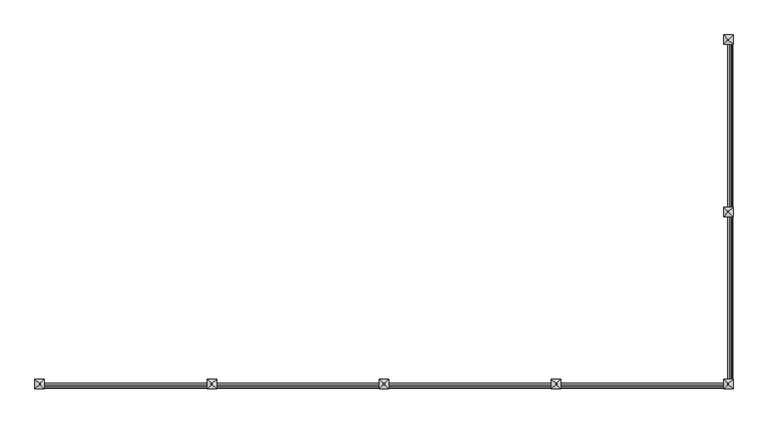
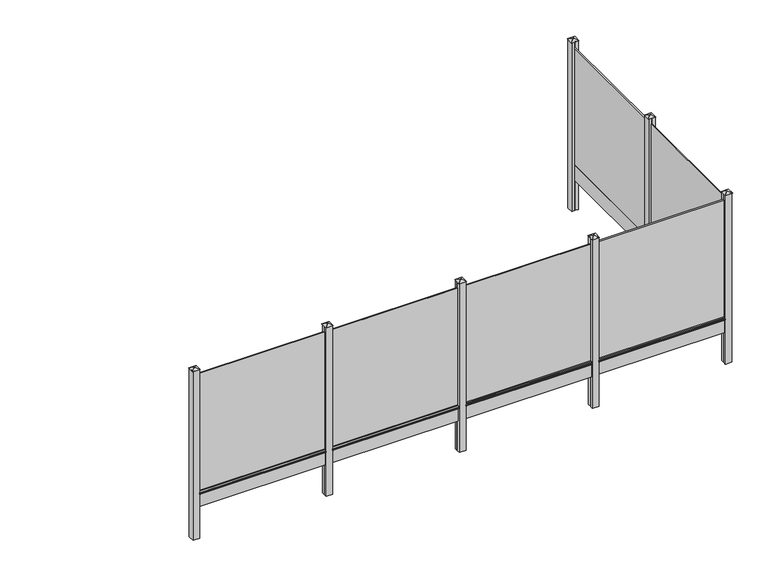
"""IFC4 building model written with IfcOpenShell, lengths in millimetres: railing geometry, Mehat - Railing - Plaque de Soubassement - Classique pour clôture rigide - 200x25x1.7 cm."""

import ifcopenshell
import ifcopenshell.guid

model = None  # the IFC model being written
_history = None  # IfcOwnerHistory: only IFC2X3 demands one
_inside = {}  # id of a spatial element -> (the spatial element, [elements in it])
_under = {}  # id of a project, library or spatial element -> (it, [spatial elements below it])
_declared = {}  # id of a project -> (the project, [libraries it declares])
_typed = {}  # id of a type object -> (the type object, [elements of that type])
_made_of = {}  # id of a material, layer set ... -> (it, [elements and type objects made of it])


def new_model(schema):
    """Start an empty IFC model of exactly this schema.

    Asked for "IFC4X3", IfcOpenShell would pick the latest addendum, in which some entities
    have other attributes; the version numbers below select the first issue.
    IFC2X3 requires an IfcOwnerHistory on every rooted entity: one is made here for all.
    """
    global model, _history
    if schema == "IFC4X3":
        model = ifcopenshell.file(schema_version=(4, 3, 0, 0))
    else:
        model = ifcopenshell.file(schema=schema)
    _inside.clear()
    _under.clear()
    _declared.clear()
    _typed.clear()
    _made_of.clear()
    _history = None
    if model.schema == "IFC2X3":
        org = make("IfcOrganization", Name="unknown")
        user = make(
            "IfcPersonAndOrganization",
            ThePerson=make("IfcPerson", FamilyName="unknown"),
            TheOrganization=org,
        )
        app = make(
            "IfcApplication",
            ApplicationDeveloper=org,
            Version="unknown",
            ApplicationFullName="unknown",
            ApplicationIdentifier="unknown",
        )
        _history = make(
            "IfcOwnerHistory",
            OwningUser=user,
            OwningApplication=app,
            ChangeAction="ADDED",
            CreationDate=0,
        )
    return model


def make(cls, **values):
    """One entity of the class cls with the attributes given. An attribute that is None is left unset."""
    return model.create_entity(
        cls, **{name: value for name, value in values.items() if value is not None}
    )


def rooted(cls, **values):
    """An entity with a GlobalId (a new one), such as an element, a storey or a relation."""
    return make(cls, GlobalId=ifcopenshell.guid.new(), OwnerHistory=_history, **values)


def si_unit(unit_type, name, prefix=None):
    """IfcSIUnit, for example si_unit("LENGTHUNIT", "METRE", prefix="MILLI")."""
    return make("IfcSIUnit", UnitType=unit_type, Prefix=prefix, Name=name)


def assignment(units):
    """IfcUnitAssignment: the units of a project."""
    return None if units is None else make("IfcUnitAssignment", Units=units)


def point(xyz):
    """IfcCartesianPoint."""
    return None if xyz is None else make("IfcCartesianPoint", Coordinates=xyz)


def direction(xyz):
    """IfcDirection."""
    return None if xyz is None else make("IfcDirection", DirectionRatios=xyz)


def frame(location, z_axis=None, x_axis=None):
    """IfcAxis2Placement3D, a coordinate frame: its origin and axes. An axis left out is left unset."""
    return make(
        "IfcAxis2Placement3D",
        Location=point(location),
        Axis=direction(z_axis),
        RefDirection=direction(x_axis),
    )


def frame_2d(location, x_axis=None):
    """IfcAxis2Placement2D, a coordinate frame in the plane: its origin and x axis."""
    return make(
        "IfcAxis2Placement2D", Location=point(location), RefDirection=direction(x_axis)
    )


def origin():
    """The frame at (0, 0, 0) with its axes left unset."""
    return frame((0.0, 0.0, 0.0))


def origin_with_axes():
    """The frame at (0, 0, 0) with the z axis (0, 0, 1) and the x axis (1, 0, 0) written out."""
    return frame((0.0, 0.0, 0.0), z_axis=(0.0, 0.0, 1.0), x_axis=(1.0, 0.0, 0.0))


def place(relative_to, where):
    """IfcLocalPlacement: puts the frame where relative to a parent placement (None: the world)."""
    return make(
        "IfcLocalPlacement", PlacementRelTo=relative_to, RelativePlacement=where
    )


def context(
    kind, dimensions, precision=None, world=None, true_north=None, identifier=None
):
    """IfcGeometricRepresentationContext, for example the 3D "Model" context."""
    return make(
        "IfcGeometricRepresentationContext",
        ContextIdentifier=identifier,
        ContextType=kind,
        CoordinateSpaceDimension=dimensions,
        Precision=precision,
        WorldCoordinateSystem=world,
        TrueNorth=true_north,
    )


def project(units=None, contexts=None):
    """IfcProject with its units and contexts."""
    return rooted(
        "IfcProject",
        Name="project",
        RepresentationContexts=contexts,
        UnitsInContext=assignment(units),
    )


def spatial(cls, under=None, at=None, **own):
    """A site, building, storey or space (cls), placed at a placement, below another one or the project."""
    s = rooted(cls, ObjectPlacement=at, **own)
    if under is not None:
        _under.setdefault(under.id(), (under, []))[1].append(s)
    return s


def polyline(points):
    """IfcPolyline through the points."""
    return make("IfcPolyline", Points=[point(p) for p in points])


def circle_curve(where, radius):
    """IfcCircle in the frame where."""
    return make("IfcCircle", Position=where, Radius=radius)


def trimmed(basis, trim1, trim2, sense, master):
    """IfcTrimmedCurve: the piece of a basis curve between two trims."""
    return make(
        "IfcTrimmedCurve",
        BasisCurve=basis,
        Trim1=trim1,
        Trim2=trim2,
        SenseAgreement=sense,
        MasterRepresentation=master,
    )


def segment(curve, same_sense, transition):
    """IfcCompositeCurveSegment."""
    return make(
        "IfcCompositeCurveSegment",
        Transition=transition,
        SameSense=same_sense,
        ParentCurve=curve,
    )


def composite_curve(segments, self_intersect=None):
    """IfcCompositeCurve: segments joined end to end."""
    return make("IfcCompositeCurve", Segments=segments, SelfIntersect=self_intersect)


def outline(outer, holes=None, kind="AREA"):
    """IfcArbitraryClosedProfileDef: a profile drawn as a closed curve; with holes, ...WithVoids."""
    if holes is None:
        return make("IfcArbitraryClosedProfileDef", ProfileType=kind, OuterCurve=outer)
    return make(
        "IfcArbitraryProfileDefWithVoids",
        ProfileType=kind,
        OuterCurve=outer,
        InnerCurves=holes,
    )


def extrude(swept, where, along, depth):
    """IfcExtrudedAreaSolid: the profile swept, set in the frame where, extruded along a direction by depth."""
    return make(
        "IfcExtrudedAreaSolid",
        SweptArea=swept,
        Position=where,
        ExtrudedDirection=direction(along),
        Depth=depth,
    )


def faces_of(points, faces, orient=None, outer=None):
    """IfcFace entities. A face is a list of loops; a loop is a list of indices into points, from 0.

    orient and outer hold one flag for each loop. By default every Orientation is true, the
    first loop of a face is its IfcFaceOuterBound and the others are IfcFaceBound.
    """
    made = []
    for i, loops in enumerate(faces):
        bounds = []
        for j, loop in enumerate(loops):
            is_outer = j == 0 if outer is None else outer[i][j]
            bounds.append(
                make(
                    "IfcFaceOuterBound" if is_outer else "IfcFaceBound",
                    Bound=make("IfcPolyLoop", Polygon=[points[k] for k in loop]),
                    Orientation=True if orient is None else orient[i][j],
                )
            )
        made.append(make("IfcFace", Bounds=bounds))
    return made


def faceted_brep(points, faces, orient=None, outer=None, voids=None):
    """IfcFacetedBrep: a solid bounded by flat faces; with voids (closed shells), ...WithVoids."""
    shared = [point(p) for p in points]
    hull = make("IfcClosedShell", CfsFaces=faces_of(shared, faces, orient, outer))
    if voids is None:
        return make("IfcFacetedBrep", Outer=hull)
    return make(
        "IfcFacetedBrepWithVoids",
        Outer=hull,
        Voids=[
            make(cls, CfsFaces=faces_of(shared, fs, o, b)) for cls, fs, o, b in voids
        ],
    )


def shape(context_of_items, identifier, shape_type, items):
    """IfcShapeRepresentation: the items that make up one representation, for example the "Body"."""
    return make(
        "IfcShapeRepresentation",
        ContextOfItems=context_of_items,
        RepresentationIdentifier=identifier,
        RepresentationType=shape_type,
        Items=items,
    )


def source(mapping_origin, context_of_items, identifier, shape_type, items):
    """IfcRepresentationMap: a shape defined once, which mapped items show again and again."""
    return make(
        "IfcRepresentationMap",
        MappingOrigin=mapping_origin,
        MappedRepresentation=shape(context_of_items, identifier, shape_type, items),
    )


def transform(
    local_origin,
    x_axis=None,
    y_axis=None,
    z_axis=None,
    scale=None,
    scale2=None,
    scale3=None,
    uniform=True,
):
    """IfcCartesianTransformationOperator3D, or its non-uniform kind. x_axis, y_axis, z_axis: its Axis1, 2, 3."""
    if uniform:
        return make(
            "IfcCartesianTransformationOperator3D",
            Axis1=direction(x_axis),
            Axis2=direction(y_axis),
            LocalOrigin=point(local_origin),
            Scale=scale,
            Axis3=direction(z_axis),
        )
    return make(
        "IfcCartesianTransformationOperator3DnonUniform",
        Axis1=direction(x_axis),
        Axis2=direction(y_axis),
        LocalOrigin=point(local_origin),
        Scale=scale,
        Axis3=direction(z_axis),
        Scale2=scale2,
        Scale3=scale3,
    )


def mapped(mapping_source, mapping_target):
    """IfcMappedItem: shows the shape of a source again, moved by a transform."""
    return make(
        "IfcMappedItem", MappingSource=mapping_source, MappingTarget=mapping_target
    )


def made_of(thing, what):
    """Note that an element or type object is made of a material, layer set ...; save() writes the relation."""
    if what is not None:
        _made_of.setdefault(what.id(), (what, []))[1].append(thing)
    return thing


def element(
    cls,
    number,
    at=None,
    inside=None,
    cuts=None,
    type_object=None,
    material=None,
    context=None,
    identifier="Body",
    shape_type=None,
    held_by="IfcProductDefinitionShape",
    body=None,
    shapes=None,
    **own,
):
    """One element of the class cls, such as IfcWall. Its Tag is "e" and its number.

    at: its placement. inside: the storey or other place that contains it. cuts: it is an
    opening in that element (IfcRelVoidsElement). A single representation is given by context,
    identifier, shape_type and body (its items); several are given by shapes. held_by: the class
    of the entity that holds the representations. save() writes the other relations.
    """
    e = rooted(cls, Tag="e%d" % number, ObjectPlacement=at, **own)
    if body is not None:
        shapes = [shape(context, identifier, shape_type, body)]
    if shapes is not None:
        e.Representation = make(held_by, Representations=shapes)
    if inside is not None:
        _inside.setdefault(inside.id(), (inside, []))[1].append(e)
    if cuts is not None:
        rooted(
            "IfcRelVoidsElement", RelatingBuildingElement=cuts, RelatedOpeningElement=e
        )
    if type_object is not None:
        _typed.setdefault(type_object.id(), (type_object, []))[1].append(e)
    return made_of(e, material)


def aggregate(whole, parts):
    """IfcRelAggregates: a whole, such as a stair, and the parts it consists of."""
    return rooted("IfcRelAggregates", RelatingObject=whole, RelatedObjects=parts)


def save(model, path):
    """Write the relations noted so far, then the file.

    IfcRelAggregates (storeys below a building ...), IfcRelContainedInSpatialStructure (elements
    in a storey), IfcRelDefinesByType, IfcRelAssociatesMaterial and IfcRelDeclares: one each for
    every whole, place, type object, material and project.
    """
    for whole, parts in _under.values():
        aggregate(whole, parts)
    for where, things in _inside.values():
        rooted(
            "IfcRelContainedInSpatialStructure",
            RelatedElements=things,
            RelatingStructure=where,
        )
    for kind, things in _typed.values():
        rooted("IfcRelDefinesByType", RelatedObjects=things, RelatingType=kind)
    for what, things in _made_of.values():
        rooted("IfcRelAssociatesMaterial", RelatedObjects=things, RelatingMaterial=what)
    for by, libraries in _declared.values():
        rooted("IfcRelDeclares", RelatingContext=by, RelatedDefinitions=libraries)
    model.write(path)


def railing_63ea84c1(model_context):
    return source(origin(), model_context, "Body", "SolidModel", [
        extrude(outline(polyline([(-40103.7483484, -11327.4943936), (-40120.7483484, -11327.4943936), (-40120.7483484, -9327.4943936), (-40103.7483484, -9327.4943936), (-40103.7483484, -11327.4943936)])), frame((0.0, 0.0, 250.0), z_axis=(0.0, 0.0, 1.0), x_axis=(1.0, 0.0, 0.0)), (0.0, 0.0, 1.0), 1900.0),
        extrude(outline(polyline([(-40103.7483484, -11327.4943936), (-40120.7483484, -11327.4943936), (-40120.7483484, -9327.4943936), (-40103.7483484, -9327.4943936), (-40103.7483484, -9352.4943936), (-40085.7483484, -9352.4943936), (-40085.7483484, -11302.4943936), (-40103.7483484, -11302.4943936), (-40103.7483484, -11327.4943936)])), origin_with_axes(), (0.0, 0.0, 1.0), 250.0),
        extrude(outline(composite_curve([segment(polyline([(210.0, -40085.7483484), (217.1937129, -40064.1672095)]), True, "CONTINUOUS"), segment(trimmed(circle_curve(frame_2d((221.9371294, -40065.7483484)), 5.0), [point((217.1937129, -40064.1672095))], [point((221.9371294, -40060.7483484))], False, "CARTESIAN"), True, "CONTINUOUS"), segment(polyline([(221.9371294, -40060.7483484), (238.0628706, -40060.7483484)]), True, "CONTINUOUS"), segment(trimmed(circle_curve(frame_2d((238.0628706, -40065.7483484)), 5.0), [point((238.0628706, -40060.7483484))], [point((242.8062871, -40064.1672095))], False, "CARTESIAN"), True, "CONTINUOUS"), segment(polyline([(242.8062871, -40064.1672095), (250.0, -40085.7483484), (210.0, -40085.7483484)]), True, "CONTINUOUS")], self_intersect=False)), frame((0.0, -11302.4943936, 0.0), z_axis=(0.0, 1.0, 0.0), x_axis=(0.0, 0.0, 1.0)), (0.0, 0.0, 1.0), 1950.0),
        extrude(outline(polyline([(-40062.2483484, -11402.4943936), (-40103.7483484, -11402.4943936), (-40103.7483484, -11377.4943936), (-40120.7483484, -11377.4943936), (-40120.7483484, -11402.4943936), (-40162.2483484, -11402.4943936), (-40162.2483484, -11302.4943936), (-40120.7483484, -11302.4943936), (-40120.7483484, -11327.4943936), (-40103.7483484, -11327.4943936), (-40103.7483484, -11302.4943936), (-40062.2483484, -11302.4943936), (-40062.2483484, -11402.4943936)])), frame((0.0, 0.0, -500.0), z_axis=(0.0, 0.0, 1.0), x_axis=(1.0, 0.0, 0.0)), (0.0, 0.0, 1.0), 2750.0),
        faceted_brep([(-40118.6528945, -11346.1443936, 2275.4), (-40118.6528945, -11358.8443936, 2275.4), (-40105.9528945, -11358.8443936, 2275.4), (-40105.9528945, -11346.1443936, 2275.4), (-40168.5983484, -11296.1443936, 2250.0), (-40055.8983484, -11296.1443936, 2250.0), (-40055.8983484, -11408.8443936, 2250.0), (-40168.5983484, -11408.8443936, 2250.0)], [[[0, 1, 2, 3]], [[4, 5, 6, 7]], [[4, 0, 3, 5]], [[5, 3, 2, 6]], [[6, 2, 1, 7]], [[7, 1, 0, 4]]]),
        extrude(outline(polyline([(-40103.7483484, -13377.4943936), (-40120.7483484, -13377.4943936), (-40120.7483484, -11377.4943936), (-40103.7483484, -11377.4943936), (-40103.7483484, -13377.4943936)])), frame((0.0, 0.0, 250.0), z_axis=(0.0, 0.0, 1.0), x_axis=(1.0, 0.0, 0.0)), (0.0, 0.0, 1.0), 1900.0),
        extrude(outline(polyline([(-40103.7483484, -13377.4943936), (-40120.7483484, -13377.4943936), (-40120.7483484, -11377.4943936), (-40103.7483484, -11377.4943936), (-40103.7483484, -11402.4943936), (-40085.7483484, -11402.4943936), (-40085.7483484, -13352.4943936), (-40103.7483484, -13352.4943936), (-40103.7483484, -13377.4943936)])), origin_with_axes(), (0.0, 0.0, 1.0), 250.0),
        extrude(outline(composite_curve([segment(polyline([(210.0, -40085.7483484), (217.1937129, -40064.1672095)]), True, "CONTINUOUS"), segment(trimmed(circle_curve(frame_2d((221.9371294, -40065.7483484)), 5.0), [point((217.1937129, -40064.1672095))], [point((221.9371294, -40060.7483484))], False, "CARTESIAN"), True, "CONTINUOUS"), segment(polyline([(221.9371294, -40060.7483484), (238.0628706, -40060.7483484)]), True, "CONTINUOUS"), segment(trimmed(circle_curve(frame_2d((238.0628706, -40065.7483484)), 5.0), [point((238.0628706, -40060.7483484))], [point((242.8062871, -40064.1672095))], False, "CARTESIAN"), True, "CONTINUOUS"), segment(polyline([(242.8062871, -40064.1672095), (250.0, -40085.7483484), (210.0, -40085.7483484)]), True, "CONTINUOUS")], self_intersect=False)), frame((0.0, -13352.4943936, 0.0), z_axis=(0.0, 1.0, 0.0), x_axis=(0.0, 0.0, 1.0)), (0.0, 0.0, 1.0), 1950.0),
        extrude(outline(polyline([(-42137.2483484, -13410.9943936), (-42137.2483484, -13393.9943936), (-40137.2483484, -13393.9943936), (-40137.2483484, -13410.9943936), (-42137.2483484, -13410.9943936)])), frame((0.0, 0.0, 250.0), z_axis=(0.0, 0.0, 1.0), x_axis=(1.0, 0.0, 0.0)), (0.0, 0.0, 1.0), 1900.0),
        extrude(outline(polyline([(-42137.2483484, -13410.9943936), (-42137.2483484, -13393.9943936), (-40137.2483484, -13393.9943936), (-40137.2483484, -13410.9943936), (-40162.2483484, -13410.9943936), (-40162.2483484, -13428.9943936), (-42112.2483484, -13428.9943936), (-42112.2483484, -13410.9943936), (-42137.2483484, -13410.9943936)])), origin_with_axes(), (0.0, 0.0, 1.0), 250.0),
        extrude(outline(composite_curve([segment(polyline([(-13428.9943936, 210.0), (-13450.5755325, 217.1937129)]), True, "CONTINUOUS"), segment(trimmed(circle_curve(frame_2d((-13448.9943936, 221.9371294)), 5.0), [point((-13450.5755325, 217.1937129))], [point((-13453.9943936, 221.9371294))], False, "CARTESIAN"), True, "CONTINUOUS"), segment(polyline([(-13453.9943936, 221.9371294), (-13453.9943936, 238.0628706)]), True, "CONTINUOUS"), segment(trimmed(circle_curve(frame_2d((-13448.9943936, 238.0628706)), 5.0), [point((-13453.9943936, 238.0628706))], [point((-13450.5755325, 242.8062871))], False, "CARTESIAN"), True, "CONTINUOUS"), segment(polyline([(-13450.5755325, 242.8062871), (-13428.9943936, 250.0), (-13428.9943936, 210.0)]), True, "CONTINUOUS")], self_intersect=False)), frame((-42112.2483484, 0.0, 0.0), z_axis=(1.0, 0.0, 0.0), x_axis=(0.0, 1.0, 0.0)), (0.0, 0.0, 1.0), 1950.0),
        extrude(outline(polyline([(-42212.2483484, -13452.4943936), (-42212.2483484, -13410.9943936), (-42187.2483484, -13410.9943936), (-42187.2483484, -13393.9943936), (-42212.2483484, -13393.9943936), (-42212.2483484, -13352.4943936), (-42112.2483484, -13352.4943936), (-42112.2483484, -13393.9943936), (-42137.2483484, -13393.9943936), (-42137.2483484, -13410.9943936), (-42112.2483484, -13410.9943936), (-42112.2483484, -13452.4943936), (-42212.2483484, -13452.4943936)])), frame((0.0, 0.0, -500.0), z_axis=(0.0, 0.0, 1.0), x_axis=(1.0, 0.0, 0.0)), (0.0, 0.0, 1.0), 2750.0),
        faceted_brep([(-42155.8983484, -13396.0898475, 2275.4), (-42168.5983484, -13396.0898475, 2275.4), (-42168.5983484, -13408.7898475, 2275.4), (-42155.8983484, -13408.7898475, 2275.4), (-42105.8983484, -13346.1443936, 2250.0), (-42105.8983484, -13458.8443936, 2250.0), (-42218.5983484, -13458.8443936, 2250.0), (-42218.5983484, -13346.1443936, 2250.0)], [[[0, 1, 2, 3]], [[4, 5, 6, 7]], [[4, 0, 3, 5]], [[5, 3, 2, 6]], [[6, 2, 1, 7]], [[7, 1, 0, 4]]]),
        extrude(outline(polyline([(-44187.2483484, -13410.9943936), (-44187.2483484, -13393.9943936), (-42187.2483484, -13393.9943936), (-42187.2483484, -13410.9943936), (-44187.2483484, -13410.9943936)])), frame((0.0, 0.0, 250.0), z_axis=(0.0, 0.0, 1.0), x_axis=(1.0, 0.0, 0.0)), (0.0, 0.0, 1.0), 1900.0),
        extrude(outline(polyline([(-44187.2483484, -13410.9943936), (-44187.2483484, -13393.9943936), (-42187.2483484, -13393.9943936), (-42187.2483484, -13410.9943936), (-42212.2483484, -13410.9943936), (-42212.2483484, -13428.9943936), (-44162.2483484, -13428.9943936), (-44162.2483484, -13410.9943936), (-44187.2483484, -13410.9943936)])), origin_with_axes(), (0.0, 0.0, 1.0), 250.0),
        extrude(outline(composite_curve([segment(polyline([(-13428.9943936, 210.0), (-13450.5755325, 217.1937129)]), True, "CONTINUOUS"), segment(trimmed(circle_curve(frame_2d((-13448.9943936, 221.9371294)), 5.0), [point((-13450.5755325, 217.1937129))], [point((-13453.9943936, 221.9371294))], False, "CARTESIAN"), True, "CONTINUOUS"), segment(polyline([(-13453.9943936, 221.9371294), (-13453.9943936, 238.0628706)]), True, "CONTINUOUS"), segment(trimmed(circle_curve(frame_2d((-13448.9943936, 238.0628706)), 5.0), [point((-13453.9943936, 238.0628706))], [point((-13450.5755325, 242.8062871))], False, "CARTESIAN"), True, "CONTINUOUS"), segment(polyline([(-13450.5755325, 242.8062871), (-13428.9943936, 250.0), (-13428.9943936, 210.0)]), True, "CONTINUOUS")], self_intersect=False)), frame((-44162.2483484, 0.0, 0.0), z_axis=(1.0, 0.0, 0.0), x_axis=(0.0, 1.0, 0.0)), (0.0, 0.0, 1.0), 1950.0),
        extrude(outline(polyline([(-44262.2483484, -13452.4943936), (-44262.2483484, -13410.9943936), (-44237.2483484, -13410.9943936), (-44237.2483484, -13393.9943936), (-44262.2483484, -13393.9943936), (-44262.2483484, -13352.4943936), (-44162.2483484, -13352.4943936), (-44162.2483484, -13393.9943936), (-44187.2483484, -13393.9943936), (-44187.2483484, -13410.9943936), (-44162.2483484, -13410.9943936), (-44162.2483484, -13452.4943936), (-44262.2483484, -13452.4943936)])), frame((0.0, 0.0, -500.0), z_axis=(0.0, 0.0, 1.0), x_axis=(1.0, 0.0, 0.0)), (0.0, 0.0, 1.0), 2750.0),
        faceted_brep([(-44205.8983484, -13396.0898475, 2275.4), (-44218.5983484, -13396.0898475, 2275.4), (-44218.5983484, -13408.7898475, 2275.4), (-44205.8983484, -13408.7898475, 2275.4), (-44155.8983484, -13346.1443936, 2250.0), (-44155.8983484, -13458.8443936, 2250.0), (-44268.5983484, -13458.8443936, 2250.0), (-44268.5983484, -13346.1443936, 2250.0)], [[[0, 1, 2, 3]], [[4, 5, 6, 7]], [[4, 0, 3, 5]], [[5, 3, 2, 6]], [[6, 2, 1, 7]], [[7, 1, 0, 4]]]),
        extrude(outline(polyline([(-46237.2483484, -13410.9943936), (-46237.2483484, -13393.9943936), (-44237.2483484, -13393.9943936), (-44237.2483484, -13410.9943936), (-46237.2483484, -13410.9943936)])), frame((0.0, 0.0, 250.0), z_axis=(0.0, 0.0, 1.0), x_axis=(1.0, 0.0, 0.0)), (0.0, 0.0, 1.0), 1900.0),
        extrude(outline(polyline([(-46237.2483484, -13410.9943936), (-46237.2483484, -13393.9943936), (-44237.2483484, -13393.9943936), (-44237.2483484, -13410.9943936), (-44262.2483484, -13410.9943936), (-44262.2483484, -13428.9943936), (-46212.2483484, -13428.9943936), (-46212.2483484, -13410.9943936), (-46237.2483484, -13410.9943936)])), origin_with_axes(), (0.0, 0.0, 1.0), 250.0),
        extrude(outline(composite_curve([segment(polyline([(-13428.9943936, 210.0), (-13450.5755325, 217.1937129)]), True, "CONTINUOUS"), segment(trimmed(circle_curve(frame_2d((-13448.9943936, 221.9371294)), 5.0), [point((-13450.5755325, 217.1937129))], [point((-13453.9943936, 221.9371294))], False, "CARTESIAN"), True, "CONTINUOUS"), segment(polyline([(-13453.9943936, 221.9371294), (-13453.9943936, 238.0628706)]), True, "CONTINUOUS"), segment(trimmed(circle_curve(frame_2d((-13448.9943936, 238.0628706)), 5.0), [point((-13453.9943936, 238.0628706))], [point((-13450.5755325, 242.8062871))], False, "CARTESIAN"), True, "CONTINUOUS"), segment(polyline([(-13450.5755325, 242.8062871), (-13428.9943936, 250.0), (-13428.9943936, 210.0)]), True, "CONTINUOUS")], self_intersect=False)), frame((-46212.2483484, 0.0, 0.0), z_axis=(1.0, 0.0, 0.0), x_axis=(0.0, 1.0, 0.0)), (0.0, 0.0, 1.0), 1950.0),
        extrude(outline(polyline([(-46312.2483484, -13452.4943936), (-46312.2483484, -13410.9943936), (-46287.2483484, -13410.9943936), (-46287.2483484, -13393.9943936), (-46312.2483484, -13393.9943936), (-46312.2483484, -13352.4943936), (-46212.2483484, -13352.4943936), (-46212.2483484, -13393.9943936), (-46237.2483484, -13393.9943936), (-46237.2483484, -13410.9943936), (-46212.2483484, -13410.9943936), (-46212.2483484, -13452.4943936), (-46312.2483484, -13452.4943936)])), frame((0.0, 0.0, -500.0), z_axis=(0.0, 0.0, 1.0), x_axis=(1.0, 0.0, 0.0)), (0.0, 0.0, 1.0), 2750.0),
        faceted_brep([(-46255.8983484, -13396.0898475, 2275.4), (-46268.5983484, -13396.0898475, 2275.4), (-46268.5983484, -13408.7898475, 2275.4), (-46255.8983484, -13408.7898475, 2275.4), (-46205.8983484, -13346.1443936, 2250.0), (-46205.8983484, -13458.8443936, 2250.0), (-46318.5983484, -13458.8443936, 2250.0), (-46318.5983484, -13346.1443936, 2250.0)], [[[0, 1, 2, 3]], [[4, 5, 6, 7]], [[4, 0, 3, 5]], [[5, 3, 2, 6]], [[6, 2, 1, 7]], [[7, 1, 0, 4]]]),
        extrude(outline(polyline([(-48287.2483484, -13410.9943936), (-48287.2483484, -13393.9943936), (-46287.2483484, -13393.9943936), (-46287.2483484, -13410.9943936), (-48287.2483484, -13410.9943936)])), frame((0.0, 0.0, 250.0), z_axis=(0.0, 0.0, 1.0), x_axis=(1.0, 0.0, 0.0)), (0.0, 0.0, 1.0), 1900.0),
        extrude(outline(polyline([(-48287.2483484, -13410.9943936), (-48287.2483484, -13393.9943936), (-46287.2483484, -13393.9943936), (-46287.2483484, -13410.9943936), (-46312.2483484, -13410.9943936), (-46312.2483484, -13428.9943936), (-48262.2483484, -13428.9943936), (-48262.2483484, -13410.9943936), (-48287.2483484, -13410.9943936)])), origin_with_axes(), (0.0, 0.0, 1.0), 250.0),
        extrude(outline(composite_curve([segment(polyline([(-13428.9943936, 210.0), (-13450.5755325, 217.1937129)]), True, "CONTINUOUS"), segment(trimmed(circle_curve(frame_2d((-13448.9943936, 221.9371294)), 5.0), [point((-13450.5755325, 217.1937129))], [point((-13453.9943936, 221.9371294))], False, "CARTESIAN"), True, "CONTINUOUS"), segment(polyline([(-13453.9943936, 221.9371294), (-13453.9943936, 238.0628706)]), True, "CONTINUOUS"), segment(trimmed(circle_curve(frame_2d((-13448.9943936, 238.0628706)), 5.0), [point((-13453.9943936, 238.0628706))], [point((-13450.5755325, 242.8062871))], False, "CARTESIAN"), True, "CONTINUOUS"), segment(polyline([(-13450.5755325, 242.8062871), (-13428.9943936, 250.0), (-13428.9943936, 210.0)]), True, "CONTINUOUS")], self_intersect=False)), frame((-48262.2483484, 0.0, 0.0), z_axis=(1.0, 0.0, 0.0), x_axis=(0.0, 1.0, 0.0)), (0.0, 0.0, 1.0), 1950.0),
        extrude(outline(polyline([(-40162.2483484, -13452.4943936), (-40162.2483484, -13410.9943936), (-40137.2483484, -13410.9943936), (-40137.2483484, -13393.9943936), (-40162.2483484, -13393.9943936), (-40162.2483484, -13352.4943936), (-40120.7483484, -13352.4943936), (-40120.7483484, -13377.4943936), (-40103.7483484, -13377.4943936), (-40103.7483484, -13352.4943936), (-40062.2483484, -13352.4943936), (-40062.2483484, -13452.4943936), (-40162.2483484, -13452.4943936)])), frame((0.0, 0.0, -500.0), z_axis=(0.0, 0.0, 1.0), x_axis=(1.0, 0.0, 0.0)), (0.0, 0.0, 1.0), 2750.0),
        faceted_brep([(-40105.8983484, -13396.0898475, 2275.4), (-40118.5983484, -13396.0898475, 2275.4), (-40118.5983484, -13408.7898475, 2275.4), (-40105.8983484, -13408.7898475, 2275.4), (-40055.8983484, -13346.1443936, 2250.0), (-40055.8983484, -13458.8443936, 2250.0), (-40168.5983484, -13458.8443936, 2250.0), (-40168.5983484, -13346.1443936, 2250.0)], [[[0, 1, 2, 3]], [[4, 5, 6, 7]], [[4, 0, 3, 5]], [[5, 3, 2, 6]], [[6, 2, 1, 7]], [[7, 1, 0, 4]]]),
        extrude(outline(polyline([(-40062.2483484, -9352.4943936), (-40103.7483484, -9352.4943936), (-40103.7483484, -9327.4943936), (-40120.7483484, -9327.4943936), (-40120.7483484, -9352.4943936), (-40162.2483484, -9352.4943936), (-40162.2483484, -9252.4943936), (-40062.2483484, -9252.4943936), (-40062.2483484, -9352.4943936)])), frame((0.0, 0.0, -500.0), z_axis=(0.0, 0.0, 1.0), x_axis=(1.0, 0.0, 0.0)), (0.0, 0.0, 1.0), 2750.0),
        faceted_brep([(-40118.6528945, -9296.1443936, 2275.4), (-40118.6528945, -9308.8443936, 2275.4), (-40105.9528945, -9308.8443936, 2275.4), (-40105.9528945, -9296.1443936, 2275.4), (-40168.5983484, -9246.1443936, 2250.0), (-40055.8983484, -9246.1443936, 2250.0), (-40055.8983484, -9358.8443936, 2250.0), (-40168.5983484, -9358.8443936, 2250.0)], [[[0, 1, 2, 3]], [[4, 5, 6, 7]], [[4, 0, 3, 5]], [[5, 3, 2, 6]], [[6, 2, 1, 7]], [[7, 1, 0, 4]]]),
        extrude(outline(polyline([(-48362.2483484, -13452.4943936), (-48362.2483484, -13352.4943936), (-48262.2483484, -13352.4943936), (-48262.2483484, -13393.9943936), (-48287.2483484, -13393.9943936), (-48287.2483484, -13410.9943936), (-48262.2483484, -13410.9943936), (-48262.2483484, -13452.4943936), (-48362.2483484, -13452.4943936)])), frame((0.0, 0.0, -500.0), z_axis=(0.0, 0.0, 1.0), x_axis=(1.0, 0.0, 0.0)), (0.0, 0.0, 1.0), 2750.0),
        faceted_brep([(-48305.8983484, -13396.0898475, 2275.4), (-48318.5983484, -13396.0898475, 2275.4), (-48318.5983484, -13408.7898475, 2275.4), (-48305.8983484, -13408.7898475, 2275.4), (-48255.8983484, -13346.1443936, 2250.0), (-48255.8983484, -13458.8443936, 2250.0), (-48368.5983484, -13458.8443936, 2250.0), (-48368.5983484, -13346.1443936, 2250.0)], [[[0, 1, 2, 3]], [[4, 5, 6, 7]], [[4, 0, 3, 5]], [[5, 3, 2, 6]], [[6, 2, 1, 7]], [[7, 1, 0, 4]]]),
    ])


if __name__ == "__main__":
    model = new_model("IFC4")
    model_context = context("Model", 3, world=origin())
    ifc_project = project(units=[si_unit("LENGTHUNIT", "METRE", prefix="MILLI")], contexts=[model_context])
    site = spatial("IfcSite", under=ifc_project)
    building = spatial("IfcBuilding", under=site)
    placement = place(None, origin())
    railing_shape = railing_63ea84c1(model_context)
    element("IfcRailing", 1, ObjectType="Mehat - Railing - Plaque de Soubassement - Classique pour clôture rigide - 200x25x1.7 cm", at=placement, inside=building, context=model_context, shape_type="MappedRepresentation", body=[
        mapped(railing_shape, transform((0.0, 0.0, 0.0), x_axis=(1.0, 0.0, 0.0), y_axis=(0.0, 1.0, 0.0), z_axis=(0.0, 0.0, 1.0))),
    ])
    save(model, "model.ifc")
